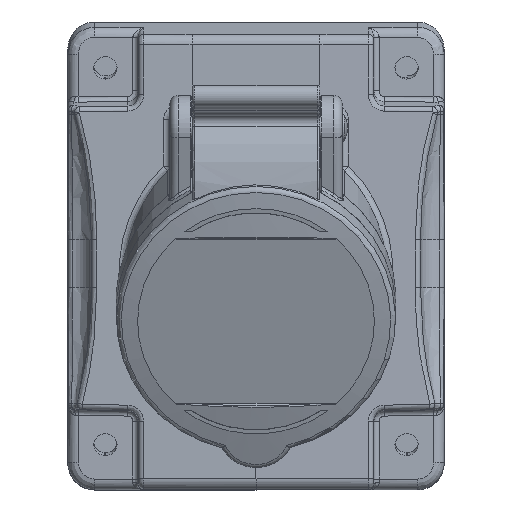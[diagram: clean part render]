
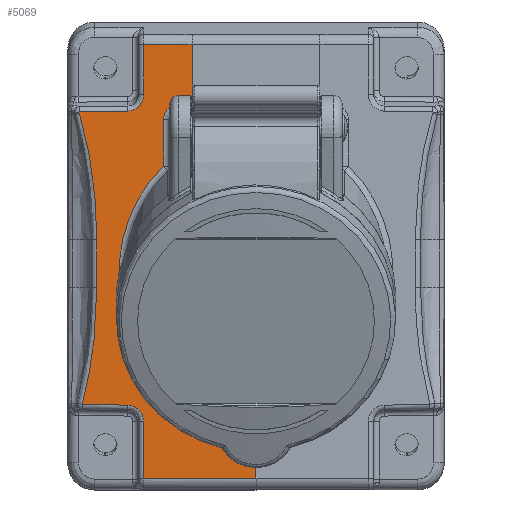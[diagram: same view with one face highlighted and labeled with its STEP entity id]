
A CAD part, front view. The second image highlights one B-rep face of the part: STEP entity #5069.
In plain terms, the highlighted planar face has unit normal (-0.006, -1, 0).
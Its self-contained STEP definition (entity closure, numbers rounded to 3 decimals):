
#4264=PLANE('',#19592);
#4624=ELLIPSE('',#19297,2.72,2.7);
#4626=ELLIPSE('',#19303,26.76,25.45);
#4636=ELLIPSE('',#19376,6.992,6.65);
#4656=ELLIPSE('',#19486,3.001,3.);
#4699=ELLIPSE('',#19591,3.173,3.);
#5069=ADVANCED_FACE('',(#6009),#4264,.F.);
#6009=FACE_OUTER_BOUND('',#6676,.T.);
#6676=EDGE_LOOP('',(#10792,#10793,#10794,#10795,#10796,#10797,#10798,#10799,
#10800,#10801,#10802,#10803,#10804,#10805,#10806,#10807,#10808,#10809,#10810,
#10811,#10812));
#7466=B_SPLINE_CURVE_WITH_KNOTS('',3,(#29806,#29807,#29808,#29809),
 .UNSPECIFIED.,.F.,.F.,(4,4),(0.,1.),.UNSPECIFIED.);
#7467=B_SPLINE_CURVE_WITH_KNOTS('',3,(#29815,#29816,#29817,#29818),
 .UNSPECIFIED.,.F.,.F.,(4,4),(0.,1.),.UNSPECIFIED.);
#7468=B_SPLINE_CURVE_WITH_KNOTS('',3,(#29820,#29821,#29822,#29823,#29824,
#29825),.UNSPECIFIED.,.F.,.F.,(4,2,4),(0.,0.5,1.),.UNSPECIFIED.);
#7469=B_SPLINE_CURVE_WITH_KNOTS('',3,(#29829,#29830,#29831,#29832),
 .UNSPECIFIED.,.F.,.F.,(4,4),(0.,1.),.UNSPECIFIED.);
#8036=LINE('',#27672,#8913);
#8091=LINE('',#28164,#8968);
#8119=LINE('',#29237,#8996);
#8123=LINE('',#29286,#9000);
#8125=LINE('',#29315,#9002);
#8138=LINE('',#29566,#9015);
#8150=LINE('',#29654,#9027);
#8170=LINE('',#29803,#9047);
#8171=LINE('',#29804,#9048);
#8172=LINE('',#29811,#9049);
#8173=LINE('',#29812,#9050);
#8174=LINE('',#29827,#9051);
#8913=VECTOR('',#21181,1.);
#8968=VECTOR('',#21396,1.);
#8996=VECTOR('',#21612,1.);
#9000=VECTOR('',#21646,1.);
#9002=VECTOR('',#21658,1.);
#9015=VECTOR('',#21737,1.);
#9027=VECTOR('',#21795,1.);
#9047=VECTOR('',#21909,1.);
#9048=VECTOR('',#21910,1.);
#9049=VECTOR('',#21911,1.);
#9050=VECTOR('',#21912,1.);
#9051=VECTOR('',#21915,1.);
#10792=ORIENTED_EDGE('',*,*,#16190,.T.);
#10793=ORIENTED_EDGE('',*,*,#16193,.T.);
#10794=ORIENTED_EDGE('',*,*,#16237,.T.);
#10795=ORIENTED_EDGE('',*,*,#16321,.F.);
#10796=ORIENTED_EDGE('',*,*,#16047,.F.);
#10797=ORIENTED_EDGE('',*,*,#15926,.F.);
#10798=ORIENTED_EDGE('',*,*,#15918,.T.);
#10799=ORIENTED_EDGE('',*,*,#15921,.T.);
#10800=ORIENTED_EDGE('',*,*,#16044,.F.);
#10801=ORIENTED_EDGE('',*,*,#16322,.T.);
#10802=ORIENTED_EDGE('',*,*,#16323,.F.);
#10803=ORIENTED_EDGE('',*,*,#16324,.F.);
#10804=ORIENTED_EDGE('',*,*,#16266,.T.);
#10805=ORIENTED_EDGE('',*,*,#16325,.T.);
#10806=ORIENTED_EDGE('',*,*,#16326,.T.);
#10807=ORIENTED_EDGE('',*,*,#16172,.T.);
#10808=ORIENTED_EDGE('',*,*,#16327,.T.);
#10809=ORIENTED_EDGE('',*,*,#16328,.T.);
#10810=ORIENTED_EDGE('',*,*,#16329,.T.);
#10811=ORIENTED_EDGE('',*,*,#16330,.T.);
#10812=ORIENTED_EDGE('',*,*,#16187,.T.);
#13818=VERTEX_POINT('',#27666);
#13821=VERTEX_POINT('',#27671);
#13823=VERTEX_POINT('',#27677);
#13826=VERTEX_POINT('',#27703);
#13921=VERTEX_POINT('',#28163);
#13923=VERTEX_POINT('',#28189);
#14001=VERTEX_POINT('',#29235);
#14003=VERTEX_POINT('',#29238);
#14008=VERTEX_POINT('',#29279);
#14010=VERTEX_POINT('',#29285);
#14012=VERTEX_POINT('',#29291);
#14014=VERTEX_POINT('',#29314);
#14037=VERTEX_POINT('',#29563);
#14049=VERTEX_POINT('',#29653);
#14050=VERTEX_POINT('',#29655);
#14079=VERTEX_POINT('',#29805);
#14080=VERTEX_POINT('',#29810);
#14081=VERTEX_POINT('',#29813);
#14082=VERTEX_POINT('',#29819);
#14083=VERTEX_POINT('',#29826);
#14084=VERTEX_POINT('',#29828);
#15918=EDGE_CURVE('',#13818,#13821,#8036,.T.);
#15921=EDGE_CURVE('',#13821,#13823,#4624,.T.);
#15926=EDGE_CURVE('',#13818,#13826,#4626,.T.);
#16044=EDGE_CURVE('',#13921,#13823,#8091,.T.);
#16047=EDGE_CURVE('',#13826,#13923,#4636,.T.);
#16172=EDGE_CURVE('',#14003,#14001,#8119,.T.);
#16187=EDGE_CURVE('',#14008,#14010,#8123,.T.);
#16190=EDGE_CURVE('',#14010,#14012,#4656,.T.);
#16193=EDGE_CURVE('',#14012,#14014,#8125,.T.);
#16237=EDGE_CURVE('',#14014,#14037,#8138,.T.);
#16266=EDGE_CURVE('',#14050,#14049,#8150,.T.);
#16321=EDGE_CURVE('',#13923,#14037,#8170,.T.);
#16322=EDGE_CURVE('',#13921,#14079,#8171,.T.);
#16323=EDGE_CURVE('',#14080,#14079,#7466,.T.);
#16324=EDGE_CURVE('',#14050,#14080,#8172,.T.);
#16325=EDGE_CURVE('',#14049,#14081,#8173,.T.);
#16326=EDGE_CURVE('',#14081,#14003,#4699,.T.);
#16327=EDGE_CURVE('',#14001,#14082,#7467,.T.);
#16328=EDGE_CURVE('',#14082,#14083,#7468,.T.);
#16329=EDGE_CURVE('',#14083,#14084,#8174,.T.);
#16330=EDGE_CURVE('',#14084,#14008,#7469,.T.);
#19297=AXIS2_PLACEMENT_3D('',#27678,#21188,#21189);
#19303=AXIS2_PLACEMENT_3D('',#27705,#21200,#21201);
#19376=AXIS2_PLACEMENT_3D('',#28191,#21401,#21402);
#19486=AXIS2_PLACEMENT_3D('',#29292,#21653,#21654);
#19591=AXIS2_PLACEMENT_3D('',#29814,#21913,#21914);
#19592=AXIS2_PLACEMENT_3D('',#29833,#21916,#21917);
#21181=DIRECTION('',(0.,0.,1.));
#21188=DIRECTION('',(0.006,1.,0.));
#21189=DIRECTION('',(0.05,0.,0.999));
#21200=DIRECTION('',(-0.006,-1.,0.));
#21201=DIRECTION('',(0.019,0.,-1.));
#21396=DIRECTION('',(-1.,0.006,-0.001));
#21401=DIRECTION('',(-0.006,-1.,0.));
#21402=DIRECTION('',(0.019,0.,-1.));
#21612=DIRECTION('',(-1.,0.006,-0.015));
#21646=DIRECTION('',(1.,-0.006,-0.017));
#21653=DIRECTION('',(0.006,1.,0.));
#21654=DIRECTION('',(0.808,-0.005,0.589));
#21658=DIRECTION('',(0.,0.,-1.));
#21737=DIRECTION('',(1.,-0.006,0.));
#21795=DIRECTION('',(-1.,0.006,0.002));
#21909=DIRECTION('',(0.,0.,-1.));
#21910=DIRECTION('',(-0.003,0.,-1.));
#21911=DIRECTION('',(0.,0.,-1.));
#21912=DIRECTION('',(0.,0.,-1.));
#21913=DIRECTION('',(0.006,1.,0.));
#21914=DIRECTION('',(0.071,0.,-0.997));
#21915=DIRECTION('',(0.,0.,-1.));
#21916=DIRECTION('',(0.006,1.,0.));
#21917=DIRECTION('',(0.,0.,1.));
#27666=CARTESIAN_POINT('',(-17.193,126.121,59.905));
#27671=CARTESIAN_POINT('',(-17.193,126.121,68.579));
#27672=CARTESIAN_POINT('',(-17.193,126.121,84.107));
#27677=CARTESIAN_POINT('',(-14.493,126.105,71.301));
#27678=CARTESIAN_POINT('',(-14.493,126.105,68.581));
#27703=CARTESIAN_POINT('',(-6.064,126.053,14.172));
#27705=CARTESIAN_POINT('',(0.007,126.016,40.147));
#28163=CARTESIAN_POINT('',(-11.896,126.089,71.303));
#28164=CARTESIAN_POINT('',(-11.896,126.089,71.303));
#28189=CARTESIAN_POINT('',(-0.001,126.016,10.023));
#28191=CARTESIAN_POINT('',(0.007,126.016,17.015));
#29235=CARTESIAN_POINT('',(-32.892,126.217,70.003));
#29237=CARTESIAN_POINT('',(-33.094,126.218,70.));
#29238=CARTESIAN_POINT('',(-23.819,126.162,70.142));
#29279=CARTESIAN_POINT('',(-32.311,126.214,15.628));
#29285=CARTESIAN_POINT('',(-23.832,126.162,15.481));
#29286=CARTESIAN_POINT('',(-1.199,126.024,15.088));
#29291=CARTESIAN_POINT('',(-20.884,126.144,12.482));
#29292=CARTESIAN_POINT('',(-23.885,126.162,12.481));
#29314=CARTESIAN_POINT('',(-20.884,126.144,1.813));
#29315=CARTESIAN_POINT('',(-20.884,126.144,84.107));
#29563=CARTESIAN_POINT('',(-0.001,126.016,1.815));
#29566=CARTESIAN_POINT('',(-0.001,126.016,1.815));
#29653=CARTESIAN_POINT('',(-20.885,126.144,82.496));
#29654=CARTESIAN_POINT('',(-21.864,126.15,82.498));
#29655=CARTESIAN_POINT('',(-11.894,126.089,82.477));
#29803=CARTESIAN_POINT('',(-0.001,126.016,10.023));
#29804=CARTESIAN_POINT('',(-11.899,126.089,69.946));
#29805=CARTESIAN_POINT('',(-11.899,126.089,69.946));
#29806=CARTESIAN_POINT('',(-11.894,126.089,69.946));
#29807=CARTESIAN_POINT('',(-11.896,126.089,69.946));
#29808=CARTESIAN_POINT('',(-11.897,126.089,69.946));
#29809=CARTESIAN_POINT('',(-11.899,126.089,69.946));
#29810=CARTESIAN_POINT('',(-11.894,126.089,69.946));
#29811=CARTESIAN_POINT('',(-11.894,126.089,82.477));
#29812=CARTESIAN_POINT('',(-20.885,126.144,72.954));
#29813=CARTESIAN_POINT('',(-20.885,126.144,73.289));
#29814=CARTESIAN_POINT('',(-23.886,126.162,73.315));
#29815=CARTESIAN_POINT('',(-32.892,126.217,70.003));
#29816=CARTESIAN_POINT('',(-32.868,126.217,69.922));
#29817=CARTESIAN_POINT('',(-32.844,126.217,69.841));
#29818=CARTESIAN_POINT('',(-32.82,126.217,69.759));
#29819=CARTESIAN_POINT('',(-32.82,126.217,69.759));
#29820=CARTESIAN_POINT('',(-32.82,126.217,69.759));
#29821=CARTESIAN_POINT('',(-31.693,126.21,65.937));
#29822=CARTESIAN_POINT('',(-30.92,126.205,62.044));
#29823=CARTESIAN_POINT('',(-29.857,126.199,54.158));
#29824=CARTESIAN_POINT('',(-29.592,126.197,50.188));
#29825=CARTESIAN_POINT('',(-29.592,126.197,46.207));
#29826=CARTESIAN_POINT('',(-29.592,126.197,46.207));
#29827=CARTESIAN_POINT('',(-29.592,126.197,84.107));
#29828=CARTESIAN_POINT('',(-29.592,126.197,37.349));
#29829=CARTESIAN_POINT('',(-29.592,126.197,37.349));
#29830=CARTESIAN_POINT('',(-29.592,126.197,30.024));
#29831=CARTESIAN_POINT('',(-30.453,126.202,22.715));
#29832=CARTESIAN_POINT('',(-32.311,126.214,15.628));
#29833=CARTESIAN_POINT('',(-0.001,126.016,84.107));
